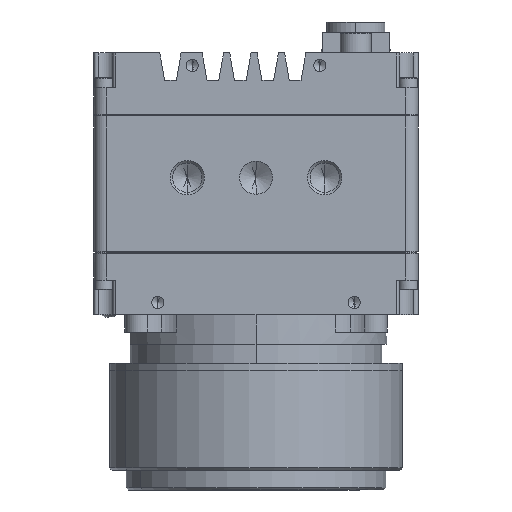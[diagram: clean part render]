
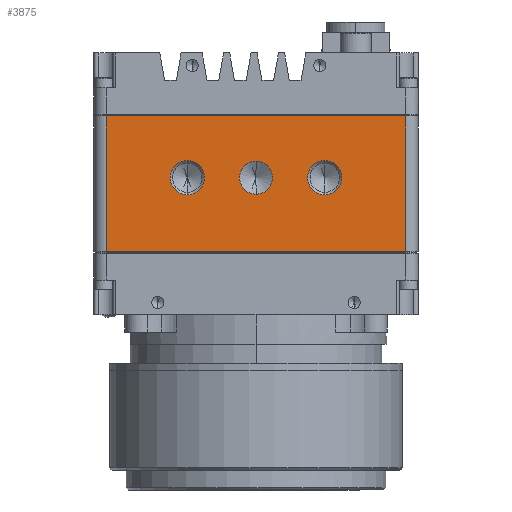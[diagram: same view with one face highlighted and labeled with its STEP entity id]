
A CAD part, front view. The second image highlights one B-rep face of the part: STEP entity #3875.
In plain terms, the highlighted planar face has unit normal (0, -1, 0).
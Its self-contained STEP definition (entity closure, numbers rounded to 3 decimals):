
#504 = AXIS2_PLACEMENT_3D ( 'NONE', #20812, #20184, #15156 ) ;
#541 = CARTESIAN_POINT ( 'NONE',  ( -14., -26.67, -12.7 ) ) ;
#833 = LINE ( 'NONE', #18608, #15348 ) ;
#960 = DIRECTION ( 'NONE',  ( 0., 0., -1. ) ) ;
#1235 = CARTESIAN_POINT ( 'NONE',  ( -30.48, -26.67, -27.813 ) ) ;
#1507 = VERTEX_POINT ( 'NONE', #19281 ) ;
#2331 = CIRCLE ( 'NONE', #16000, 3.378 ) ;
#2457 = DIRECTION ( 'NONE',  ( 0., -1., 0. ) ) ;
#2644 = FACE_BOUND ( 'NONE', #22454, .T. ) ;
#2733 = CARTESIAN_POINT ( 'NONE',  ( 14., -26.67, -12.7 ) ) ;
#3131 = DIRECTION ( 'NONE',  ( -1., 0., 0. ) ) ;
#3315 = VERTEX_POINT ( 'NONE', #22318 ) ;
#3344 = EDGE_CURVE ( 'NONE', #12278, #7112, #4292, .T. ) ;
#3875 = ADVANCED_FACE ( 'NONE', ( #2644, #8695, #10887, #22580 ), #20611, .F. ) ;
#3938 = CIRCLE ( 'NONE', #504, 3.378 ) ;
#4292 = LINE ( 'NONE', #4664, #19581 ) ;
#4308 = CARTESIAN_POINT ( 'NONE',  ( -30.48, -26.67, -0.127 ) ) ;
#4639 = VERTEX_POINT ( 'NONE', #13023 ) ;
#4664 = CARTESIAN_POINT ( 'NONE',  ( -30.48, -26.67, -27.813 ) ) ;
#4966 = CARTESIAN_POINT ( 'NONE',  ( -33.02, -26.67, 0. ) ) ;
#5833 = LINE ( 'NONE', #14978, #6651 ) ;
#6076 = VERTEX_POINT ( 'NONE', #14060 ) ;
#6334 = DIRECTION ( 'NONE',  ( 0., 0., -1. ) ) ;
#6459 = EDGE_CURVE ( 'NONE', #4639, #14704, #15799, .T. ) ;
#6651 = VECTOR ( 'NONE', #9739, 1000. ) ;
#7112 = VERTEX_POINT ( 'NONE', #1235 ) ;
#7385 = AXIS2_PLACEMENT_3D ( 'NONE', #16920, #10089, #6334 ) ;
#7388 = EDGE_CURVE ( 'NONE', #21972, #7112, #17667, .T. ) ;
#7462 = CARTESIAN_POINT ( 'NONE',  ( -30.48, -26.67, 0. ) ) ;
#7604 = DIRECTION ( 'NONE',  ( 0., 0., -1. ) ) ;
#7982 = ORIENTED_EDGE ( 'NONE', *, *, #15188, .F. ) ;
#8101 = DIRECTION ( 'NONE',  ( 0., 0., -1. ) ) ;
#8524 = CIRCLE ( 'NONE', #13377, 3.5 ) ;
#8695 = FACE_BOUND ( 'NONE', #21700, .T. ) ;
#8732 = EDGE_LOOP ( 'NONE', ( #10142, #11252, #11245, #14482 ) ) ;
#8933 = ORIENTED_EDGE ( 'NONE', *, *, #12464, .F. ) ;
#9362 = CARTESIAN_POINT ( 'NONE',  ( -14., -26.67, -16.2 ) ) ;
#9739 = DIRECTION ( 'NONE',  ( 0., 0., 1. ) ) ;
#9934 = EDGE_CURVE ( 'NONE', #1507, #21972, #833, .T. ) ;
#10018 = CIRCLE ( 'NONE', #21155, 3.5 ) ;
#10035 = DIRECTION ( 'NONE',  ( 0., 0., 1. ) ) ;
#10089 = DIRECTION ( 'NONE',  ( 0., -1., 0. ) ) ;
#10142 = ORIENTED_EDGE ( 'NONE', *, *, #9934, .T. ) ;
#10742 = ORIENTED_EDGE ( 'NONE', *, *, #6459, .F. ) ;
#10823 = AXIS2_PLACEMENT_3D ( 'NONE', #2733, #13350, #8101 ) ;
#10824 = DIRECTION ( 'NONE',  ( 0., 0., -1. ) ) ;
#10887 = FACE_BOUND ( 'NONE', #15256, .T. ) ;
#11052 = AXIS2_PLACEMENT_3D ( 'NONE', #4966, #11641, #10035 ) ;
#11078 = ORIENTED_EDGE ( 'NONE', *, *, #21014, .F. ) ;
#11178 = ORIENTED_EDGE ( 'NONE', *, *, #13141, .F. ) ;
#11210 = CARTESIAN_POINT ( 'NONE',  ( 14., -26.67, -16.2 ) ) ;
#11245 = ORIENTED_EDGE ( 'NONE', *, *, #3344, .F. ) ;
#11252 = ORIENTED_EDGE ( 'NONE', *, *, #7388, .T. ) ;
#11263 = CIRCLE ( 'NONE', #7385, 3.5 ) ;
#11487 = DIRECTION ( 'NONE',  ( 0., -1., 0. ) ) ;
#11641 = DIRECTION ( 'NONE',  ( 0., 1., 0. ) ) ;
#12278 = VERTEX_POINT ( 'NONE', #19617 ) ;
#12464 = EDGE_CURVE ( 'NONE', #14960, #3315, #11263, .T. ) ;
#13023 = CARTESIAN_POINT ( 'NONE',  ( 14., -26.67, -9.2 ) ) ;
#13141 = EDGE_CURVE ( 'NONE', #3315, #14960, #8524, .T. ) ;
#13350 = DIRECTION ( 'NONE',  ( 0., -1., 0. ) ) ;
#13377 = AXIS2_PLACEMENT_3D ( 'NONE', #541, #2457, #14760 ) ;
#14060 = CARTESIAN_POINT ( 'NONE',  ( 0., -26.67, -9.322 ) ) ;
#14482 = ORIENTED_EDGE ( 'NONE', *, *, #16909, .T. ) ;
#14704 = VERTEX_POINT ( 'NONE', #11210 ) ;
#14760 = DIRECTION ( 'NONE',  ( 0., 0., -1. ) ) ;
#14960 = VERTEX_POINT ( 'NONE', #9362 ) ;
#14978 = CARTESIAN_POINT ( 'NONE',  ( 30.48, -26.67, 0. ) ) ;
#15156 = DIRECTION ( 'NONE',  ( 0., 0., -1. ) ) ;
#15188 = EDGE_CURVE ( 'NONE', #14704, #4639, #10018, .T. ) ;
#15256 = EDGE_LOOP ( 'NONE', ( #11078, #16311 ) ) ;
#15348 = VECTOR ( 'NONE', #20299, 1000. ) ;
#15701 = VERTEX_POINT ( 'NONE', #21628 ) ;
#15799 = CIRCLE ( 'NONE', #10823, 3.5 ) ;
#16000 = AXIS2_PLACEMENT_3D ( 'NONE', #19416, #19557, #10824 ) ;
#16311 = ORIENTED_EDGE ( 'NONE', *, *, #21565, .F. ) ;
#16909 = EDGE_CURVE ( 'NONE', #12278, #1507, #5833, .T. ) ;
#16920 = CARTESIAN_POINT ( 'NONE',  ( -14., -26.67, -12.7 ) ) ;
#17667 = LINE ( 'NONE', #7462, #19569 ) ;
#18608 = CARTESIAN_POINT ( 'NONE',  ( -30.48, -26.67, -0.127 ) ) ;
#19281 = CARTESIAN_POINT ( 'NONE',  ( 30.48, -26.67, -0.127 ) ) ;
#19416 = CARTESIAN_POINT ( 'NONE',  ( 0., -26.67, -12.7 ) ) ;
#19557 = DIRECTION ( 'NONE',  ( 0., -1., 0. ) ) ;
#19569 = VECTOR ( 'NONE', #7604, 1000. ) ;
#19581 = VECTOR ( 'NONE', #3131, 1000. ) ;
#19617 = CARTESIAN_POINT ( 'NONE',  ( 30.48, -26.67, -27.813 ) ) ;
#20147 = CARTESIAN_POINT ( 'NONE',  ( 14., -26.67, -12.7 ) ) ;
#20184 = DIRECTION ( 'NONE',  ( 0., -1., 0. ) ) ;
#20299 = DIRECTION ( 'NONE',  ( -1., 0., 0. ) ) ;
#20611 = PLANE ( 'NONE',  #11052 ) ;
#20812 = CARTESIAN_POINT ( 'NONE',  ( 0., -26.67, -12.7 ) ) ;
#21014 = EDGE_CURVE ( 'NONE', #15701, #6076, #2331, .T. ) ;
#21155 = AXIS2_PLACEMENT_3D ( 'NONE', #20147, #11487, #960 ) ;
#21565 = EDGE_CURVE ( 'NONE', #6076, #15701, #3938, .T. ) ;
#21628 = CARTESIAN_POINT ( 'NONE',  ( 0., -26.67, -16.078 ) ) ;
#21700 = EDGE_LOOP ( 'NONE', ( #7982, #10742 ) ) ;
#21972 = VERTEX_POINT ( 'NONE', #4308 ) ;
#22318 = CARTESIAN_POINT ( 'NONE',  ( -14., -26.67, -9.2 ) ) ;
#22454 = EDGE_LOOP ( 'NONE', ( #8933, #11178 ) ) ;
#22580 = FACE_OUTER_BOUND ( 'NONE', #8732, .T. ) ;
